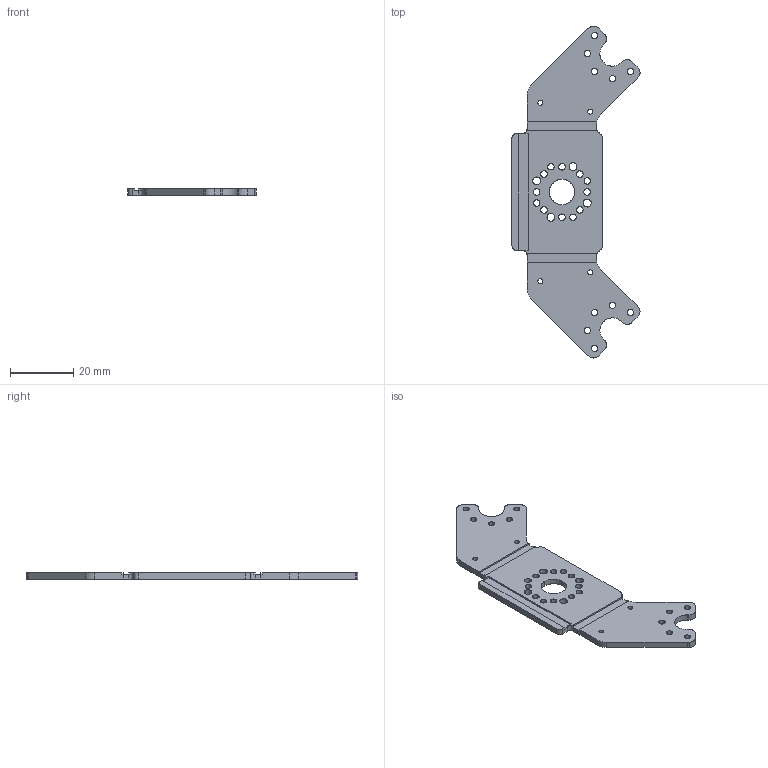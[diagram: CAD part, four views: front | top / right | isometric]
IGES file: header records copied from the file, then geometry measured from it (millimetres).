
Global section: file name: C:\Users\Knabe\Documents\Classes\8 Semester 8\DARwIn\Deliverables\DARwIn OP\DARwIn OP Part Files\CAD 2D\2D IGS\10_FR07_H102.igs; native system: NX V7.0; preprocessor: SIEMENS PLM Software NX 7.0; date: 20110525.173223; units: millimetre
Bounding box: 40.53 x 105.06 x 2 mm (x, y, z)
Surface area: 5712.3 mm2 (no closed solid volume)
Topology: 0 solids, 0 shells, 158 faces, 1322 edges, 1384 vertices
Faces by surface type: bspline 158
